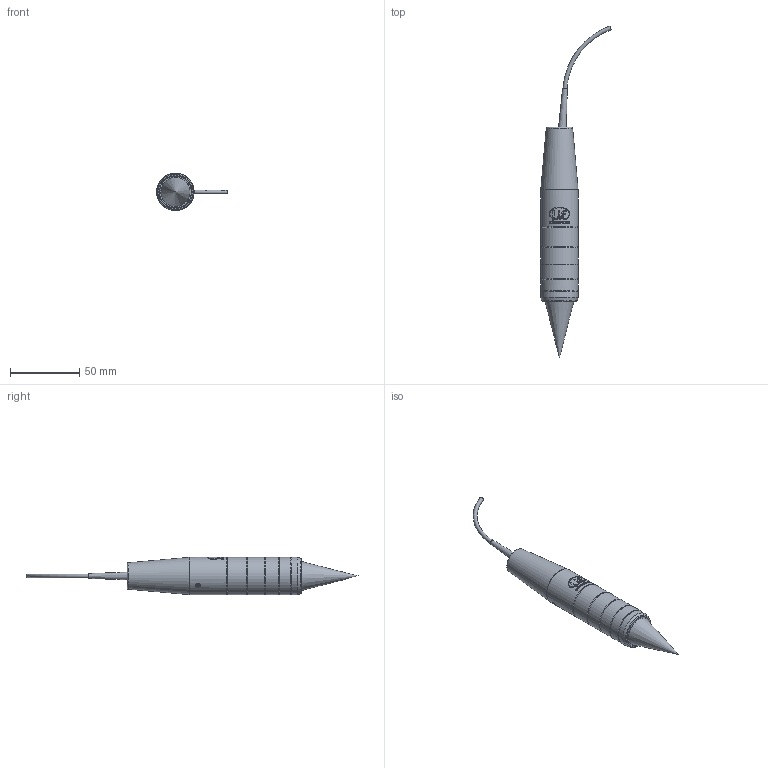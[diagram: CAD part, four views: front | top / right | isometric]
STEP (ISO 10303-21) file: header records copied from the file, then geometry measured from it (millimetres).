
FILE_DESCRIPTION (( 'STEP AP214' ), '1' );
FILE_NAME ('IFS2404-6.STEP', '2026-02-11T09:24:07', ( '' ), ( '' ), 'SwSTEP 2.0', 'SolidWorks 2022', '' );
FILE_SCHEMA (( 'AUTOMOTIVE_DESIGN' ));
Length unit declared in the file: millimetre
Products named in the file (1): IFS2404-6
Bounding box: 50.87 x 239.21 x 27 mm (x, y, z)
Volume: 65793 mm3; surface area: 15236.5 mm2
Topology: 2 solids, 4 shells, 79 faces, 389 edges, 344 vertices
Faces by surface type: cylinder 31, plane 27, cone 12, torus 9
Full cylindrical faces by diameter (mm): 0.05 x1, 2.5 x2, 14 x1, 23 x1, 25.714 x1, 26.9 x1, 27 x5
Entity records: 6528 total; most frequent: CARTESIAN_POINT 3168, ORIENTED_EDGE 672, DIRECTION 401, EDGE_CURVE 336, VERTEX_POINT 324, B_SPLINE_CURVE_WITH_KNOTS 175, AXIS2_PLACEMENT_3D 162, EDGE_LOOP 140
